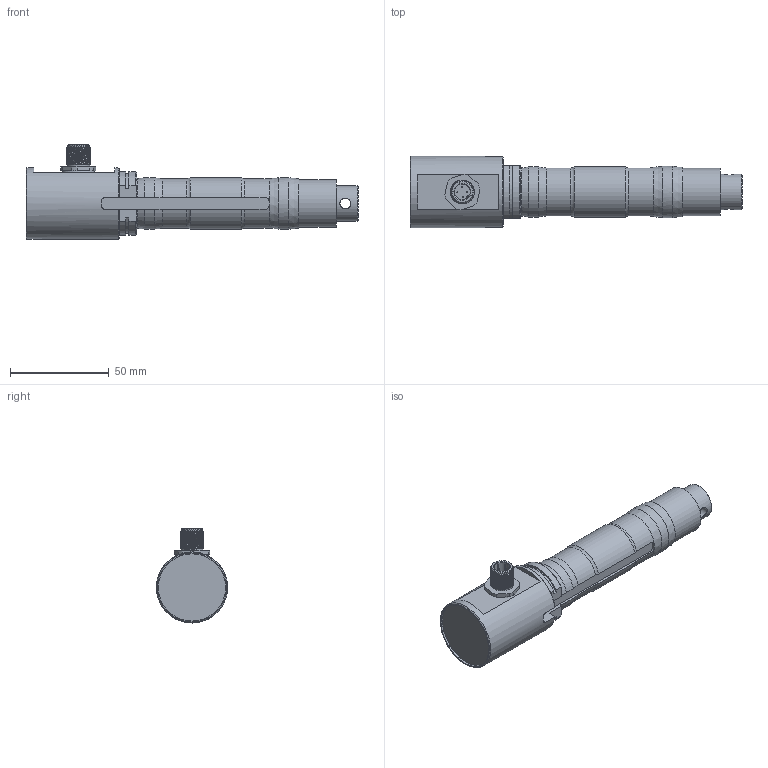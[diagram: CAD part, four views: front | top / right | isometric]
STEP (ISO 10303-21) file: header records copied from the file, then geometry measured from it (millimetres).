
FILE_DESCRIPTION(/* description */ ('Alibre Inc.'),/* implementation_level */ '2;1');
FILE_NAME(/* name */ 'export-5298C5D6-6C92-4079-9C77-CBFC8A444F2D',/* time_stamp */ '2019-04-05T08:45:00+02:00',/* author */ (''),/* organization */ (''),/* preprocessor_version */ 'ST-DEVELOPER v17',/* originating_system */ 'Alibre',/* authorisation */ '');
FILE_SCHEMA (('CONFIG_CONTROL_DESIGN'));
Length unit declared in the file: centimetre
Products named in the file (3): ID_1
Bounding box: 168 x 36 x 47.59 mm (x, y, z)
Volume: 163980.4 mm3; surface area: 93110.6 mm2
Topology: 6 solids, 7 shells, 183 faces, 436 edges, 277 vertices
Faces by surface type: plane 73, cylinder 61, bspline 23, cone 18, torus 8
Full cylindrical faces by diameter (mm): 0.5 x8, 5.5 x1, 8 x2, 10 x2, 11 x1, 11.5 x1, 13 x2, 14.5 x1, 18 x1, 24 x1, 26 x1, 34 x1, 36 x1
Entity records: 15457 total; most frequent: CARTESIAN_POINT 11742, ORIENTED_EDGE 790, DIRECTION 513, EDGE_CURVE 388, VERTEX_POINT 262, EDGE_LOOP 240, FACE_BOUND 240, AXIS2_PLACEMENT_3D 220
